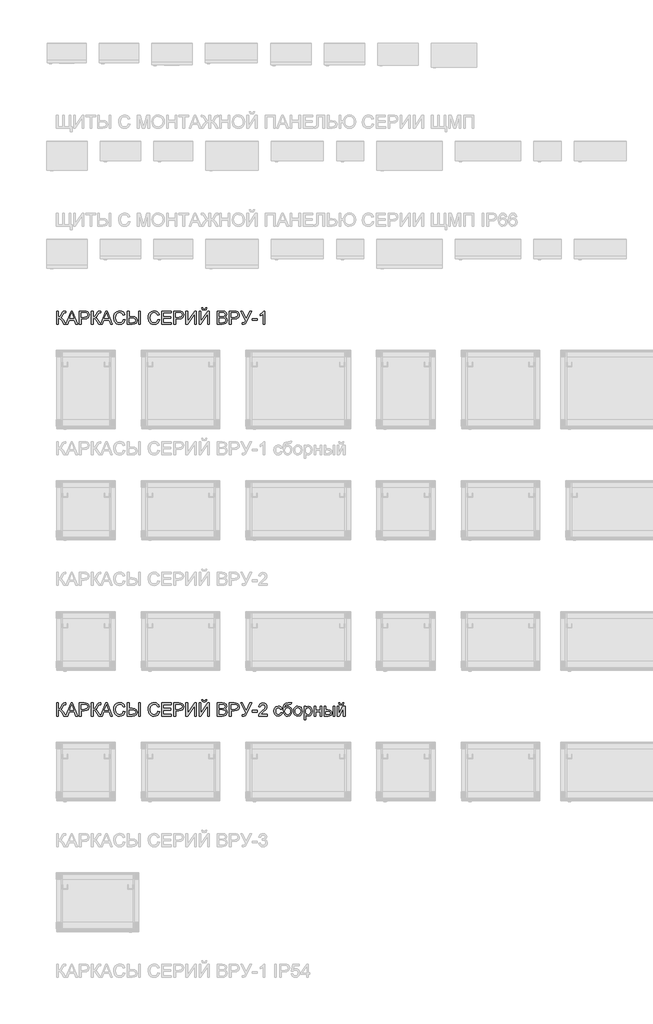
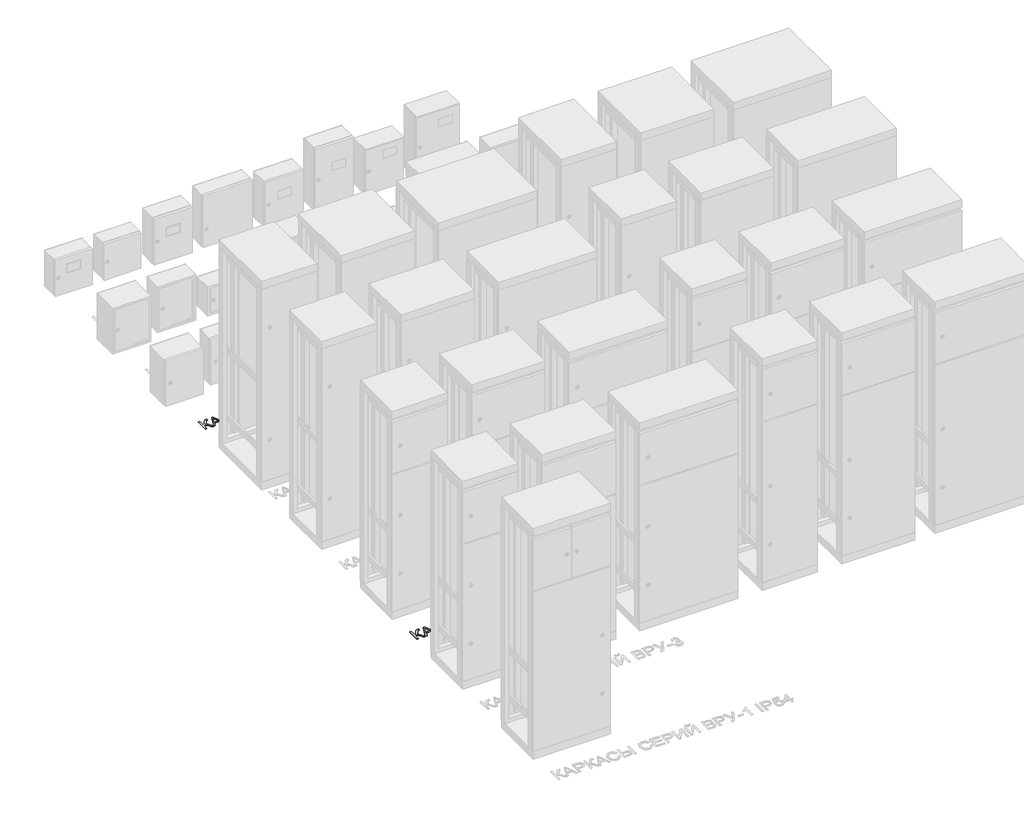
# One storey, part 6 of 25: 2 proxies.
"""IFC4 building model written with IfcOpenShell, lengths in millimetres."""

from ifc_helpers import new_model, si_unit, frame, origin, place, context, project, spatial, polyline, outline, extrude, element, save

model = new_model("IFC4")

# Units and contexts
model_context = context("Model", 3, world=origin())
ifc_project = project(units=[si_unit("LENGTHUNIT", "METRE", prefix="MILLI")], contexts=[model_context])

# Site, building, storey
site = spatial("IfcSite", under=ifc_project)
building = spatial("IfcBuilding", under=site)
storey = spatial("IfcBuildingStorey", under=building, Name="Этаж 01", Elevation=0.0)

# Proxies
placement = place(None, origin())
element("IfcBuildingElementProxy", 1, Name="Надпись на модели 1", ObjectType="Надпись на модели 1", at=placement, inside=storey, context=model_context, shape_type="SweptSolid", body=[
    extrude(outline(polyline([(-18982.0558227, 3786.235284), (-18999.9103622, 3814.5376722), (-19012.4796637, 3829.3142656), (-19025.564, 3833.3241794), (-19025.564, 3786.235284), (-19038.1210387, 3786.235284), (-19038.1210387, 3886.6915941), (-19025.564, 3886.6915941), (-19025.564, 3842.7419585), (-19011.5231705, 3846.0651591), (-19001.7252467, 3862.8773663), (-18994.7968024, 3876.9181958), (-18986.9486532, 3883.8711655), (-18975.7282523, 3886.6915941), (-18967.4876957, 3886.5444413), (-18967.4876957, 3873.9874026), (-18970.2590734, 3874.060979), (-18973.030451, 3874.1345554), (-18982.8406376, 3871.117923), (-18990.2963794, 3858.1930022), (-18999.1868609, 3842.4476529), (-19007.8566133, 3837.248254), (-18998.1629227, 3831.5706085), (-18988.6041222, 3819.737071), (-18967.9231583, 3786.9261574), (-18928.0997967, 3886.6915941), (-18917.4066934, 3886.6915941), (-18877.3075559, 3786.235284), (-18890.5758332, 3786.235284), (-18902.0782769, 3817.6278809), (-18943.4527386, 3817.6278809), (-18954.9306569, 3786.235284), (-18968.1989342, 3786.235284), (-18982.0558227, 3786.235284)]), holes=[polyline([(-18938.841951, 3830.1849197), (-18906.6645391, 3830.1849197), (-18915.7144362, 3854.8820643), (-18922.753245, 3874.1345554), (-18929.007239, 3857.0403053), (-18938.841951, 3830.1849197)])]), frame((0.0, 0.0, 40.0), z_axis=(0.0, 0.0, 1.0), x_axis=(1.0, 0.0, 0.0)), (0.0, 0.0, 1.0), 2.0),
    extrude(outline(polyline([(-18863.8921258, 3786.235284), (-18863.8921258, 3886.6915941), (-18826.6624679, 3886.6915941), (-18811.6528825, 3885.735101), (-18799.451463, 3881.0384742), (-18791.5420001, 3871.3263895), (-18788.5498932, 3857.6289165), (-18790.5701785, 3845.7892476), (-18796.6310344, 3835.9238788), (-18807.9648655, 3829.2652147), (-18825.8040766, 3827.04566), (-18851.335087, 3827.04566), (-18851.335087, 3786.235284), (-18863.8921258, 3786.235284)]), holes=[polyline([(-18851.335087, 3839.6026988), (-18825.0683126, 3839.6026988), (-18806.576111, 3844.2134864), (-18802.4742267, 3849.7623732), (-18801.106932, 3857.1874581), (-18804.3320308, 3867.5862559), (-18812.8055794, 3873.2761641), (-18825.3626182, 3874.1345554), (-18851.335087, 3874.1345554), (-18851.335087, 3839.6026988)])]), frame((0.0, 0.0, 40.0), z_axis=(0.0, 0.0, 1.0), x_axis=(1.0, 0.0, 0.0)), (0.0, 0.0, 1.0), 2.0),
    extrude(outline(polyline([(-18715.2187488, 3786.235284), (-18733.0732883, 3814.5376722), (-18745.6425898, 3829.3142656), (-18758.7269261, 3833.3241794), (-18758.7269261, 3786.235284), (-18771.2839649, 3786.235284), (-18771.2839649, 3886.6915941), (-18758.7269261, 3886.6915941), (-18758.7269261, 3842.7419585), (-18744.6860966, 3846.0651591), (-18734.8881728, 3862.8773663), (-18727.9597286, 3876.9181958), (-18720.1115794, 3883.8711655), (-18708.8911785, 3886.6915941), (-18700.6506218, 3886.5444413), (-18700.6506218, 3873.9874026), (-18703.4219995, 3874.060979), (-18706.1933772, 3874.1345554), (-18716.0035638, 3871.117923), (-18723.4593055, 3858.1930022), (-18732.3497871, 3842.4476529), (-18741.0195394, 3837.248254), (-18731.3258489, 3831.5706085), (-18721.7670483, 3819.737071), (-18701.0860845, 3786.9261574), (-18661.2627229, 3886.6915941), (-18650.5696195, 3886.6915941), (-18610.4704821, 3786.235284), (-18623.7387594, 3786.235284), (-18635.2412031, 3817.6278809), (-18676.6156648, 3817.6278809), (-18688.0935831, 3786.235284), (-18701.3618603, 3786.235284), (-18715.2187488, 3786.235284)]), holes=[polyline([(-18672.0048771, 3830.1849197), (-18639.8274653, 3830.1849197), (-18648.8773624, 3854.8820643), (-18655.9161712, 3874.1345554), (-18662.1701651, 3857.0403053), (-18672.0048771, 3830.1849197)])]), frame((0.0, 0.0, 40.0), z_axis=(0.0, 0.0, 1.0), x_axis=(1.0, 0.0, 0.0)), (0.0, 0.0, 1.0), 2.0),
    extrude(outline(polyline([(-18526.4217089, 3821.944363), (-18513.8646701, 3818.7070014), (-18519.6588116, 3804.0744951), (-18528.7516282, 3793.3844574), (-18540.6955303, 3786.845355), (-18555.0429281, 3784.6656541), (-18569.6079895, 3786.3149918), (-18581.1748125, 3791.2630046), (-18590.0407686, 3799.3380144), (-18596.503229, 3810.3683429), (-18601.7639415, 3837.2237285), (-18600.2770851, 3851.8715633), (-18595.8165159, 3864.5205726), (-18588.6152259, 3874.7691518), (-18578.9062069, 3882.2156965), (-18567.3915004, 3886.7498421), (-18554.773148, 3888.261224), (-18541.0051643, 3886.305318), (-18529.6222823, 3880.4376002), (-18520.9801211, 3871.0198211), (-18515.4343, 3858.4137314), (-18527.9913387, 3855.4216246), (-18538.2920346, 3870.8604056), (-18555.2636573, 3875.7041852), (-18574.9085559, 3870.3331081), (-18586.0063294, 3855.9121339), (-18589.2069027, 3837.248254), (-18585.4177182, 3815.6167927), (-18573.6209689, 3801.7966924), (-18556.2937269, 3797.2226929), (-18545.8121557, 3798.78006), (-18537.078024, 3803.4521614), (-18530.4837393, 3811.189946), (-18526.4217089, 3821.944363)])), frame((0.0, 0.0, 40.0), z_axis=(0.0, 0.0, 1.0), x_axis=(1.0, 0.0, 0.0)), (0.0, 0.0, 1.0), 2.0),
    extrude(outline(polyline([(-18496.5987418, 3886.6915941), (-18484.0417031, 3886.6915941), (-18484.0417031, 3844.3115883), (-18459.9086442, 3844.3115883), (-18440.269877, 3842.1165591), (-18428.7367765, 3835.5314713), (-18423.126576, 3826.1627432), (-18421.2565092, 3815.6167927), (-18423.2338749, 3804.6017926), (-18429.1659721, 3795.0521891), (-18440.4691464, 3788.4395103), (-18458.5597435, 3786.235284), (-18496.5987418, 3786.235284), (-18496.5987418, 3886.6915941)]), holes=[polyline([(-18484.0417031, 3798.7923228), (-18458.6823709, 3798.7923228), (-18439.7119226, 3802.777711), (-18435.2881416, 3807.9617815), (-18433.813548, 3815.5432163), (-18437.3820033, 3825.5250811), (-18446.6035787, 3830.6509035), (-18465.475925, 3831.7545495), (-18484.0417031, 3831.7545495), (-18484.0417031, 3798.7923228)])]), frame((0.0, 0.0, 40.0), z_axis=(0.0, 0.0, 1.0), x_axis=(1.0, 0.0, 0.0)), (0.0, 0.0, 1.0), 2.0),
    extrude(outline(polyline([(-18408.6994704, 3886.6915941), (-18396.1424317, 3886.6915941), (-18396.1424317, 3786.235284), (-18408.6994704, 3786.235284), (-18408.6994704, 3886.6915941)])), frame((0.0, 0.0, 40.0), z_axis=(0.0, 0.0, 1.0), x_axis=(1.0, 0.0, 0.0)), (0.0, 0.0, 1.0), 2.0),
    extrude(outline(polyline([(-18262.7238948, 3821.944363), (-18250.166856, 3818.7070014), (-18255.9609974, 3804.0744951), (-18265.0538141, 3793.3844574), (-18276.9977162, 3786.845355), (-18291.345114, 3784.6656541), (-18305.9101753, 3786.3149918), (-18317.4769984, 3791.2630046), (-18326.3429545, 3799.3380144), (-18332.8054148, 3810.3683429), (-18338.0661274, 3837.2237285), (-18336.579271, 3851.8715633), (-18332.1187018, 3864.5205726), (-18324.9174117, 3874.7691518), (-18315.2083927, 3882.2156965), (-18303.6936863, 3886.7498421), (-18291.0753339, 3888.261224), (-18277.3073502, 3886.305318), (-18265.9244681, 3880.4376002), (-18257.2823069, 3871.0198211), (-18251.7364858, 3858.4137314), (-18264.2935246, 3855.4216246), (-18274.5942205, 3870.8604056), (-18291.5658432, 3875.7041852), (-18311.2107417, 3870.3331081), (-18322.3085152, 3855.9121339), (-18325.5090886, 3837.248254), (-18321.7199041, 3815.6167927), (-18309.9231547, 3801.7966924), (-18292.5959128, 3797.2226929), (-18282.1143416, 3798.78006), (-18273.3802099, 3803.4521614), (-18266.7859251, 3811.189946), (-18262.7238948, 3821.944363)])), frame((0.0, 0.0, 40.0), z_axis=(0.0, 0.0, 1.0), x_axis=(1.0, 0.0, 0.0)), (0.0, 0.0, 1.0), 2.0),
    extrude(outline(polyline([(-18232.9009277, 3786.235284), (-18232.9009277, 3886.6915941), (-18160.6979548, 3886.6915941), (-18160.6979548, 3874.1345554), (-18220.3438889, 3874.1345554), (-18220.3438889, 3844.3115883), (-18163.8372145, 3844.3115883), (-18163.8372145, 3831.7545495), (-18220.3438889, 3831.7545495), (-18220.3438889, 3798.7923228), (-18159.1283249, 3798.7923228), (-18159.1283249, 3786.235284), (-18232.9009277, 3786.235284)])), frame((0.0, 0.0, 40.0), z_axis=(0.0, 0.0, 1.0), x_axis=(1.0, 0.0, 0.0)), (0.0, 0.0, 1.0), 2.0),
    extrude(outline(polyline([(-18140.2927668, 3786.235284), (-18140.2927668, 3886.6915941), (-18103.0631089, 3886.6915941), (-18088.0535235, 3885.735101), (-18075.8521039, 3881.0384742), (-18067.942641, 3871.3263895), (-18064.9505342, 3857.6289165), (-18066.9708194, 3845.7892476), (-18073.0316753, 3835.9238788), (-18084.3655064, 3829.2652147), (-18102.2047175, 3827.04566), (-18127.735728, 3827.04566), (-18127.735728, 3786.235284), (-18140.2927668, 3786.235284)]), holes=[polyline([(-18127.735728, 3839.6026988), (-18101.4689535, 3839.6026988), (-18082.9767519, 3844.2134864), (-18078.8748677, 3849.7623732), (-18077.5075729, 3857.1874581), (-18080.7326717, 3867.5862559), (-18089.2062204, 3873.2761641), (-18101.7632591, 3874.1345554), (-18127.735728, 3874.1345554), (-18127.735728, 3839.6026988)])]), frame((0.0, 0.0, 40.0), z_axis=(0.0, 0.0, 1.0), x_axis=(1.0, 0.0, 0.0)), (0.0, 0.0, 1.0), 2.0),
    extrude(outline(polyline([(-18047.6846058, 3886.6915941), (-18035.1275671, 3886.6915941), (-18035.1275671, 3807.1309813), (-17982.5449672, 3886.6915941), (-17969.2031135, 3886.6915941), (-17969.2031135, 3786.235284), (-17981.7601523, 3786.235284), (-17981.7601523, 3865.5751676), (-18034.2201248, 3786.235284), (-18047.6846058, 3786.235284), (-18047.6846058, 3886.6915941)])), frame((0.0, 0.0, 40.0), z_axis=(0.0, 0.0, 1.0), x_axis=(1.0, 0.0, 0.0)), (0.0, 0.0, 1.0), 2.0),
    extrude(outline(polyline([(-17897.0001406, 3911.8056717), (-17887.5823615, 3911.8056717), (-17893.6769399, 3897.8384186), (-17907.2027346, 3892.9701135), (-17921.844438, 3897.8016304), (-17928.3927375, 3911.8056717), (-17918.9749585, 3911.8056717), (-17915.4432913, 3904.7300746), (-17908.3309061, 3902.3878926), (-17900.5318078, 3904.6564982), (-17897.0001406, 3911.8056717)])), frame((0.0, 0.0, 40.0), z_axis=(0.0, 0.0, 1.0), x_axis=(1.0, 0.0, 0.0)), (0.0, 0.0, 1.0), 2.0),
    extrude(outline(polyline([(-17947.2282957, 3886.6915941), (-17934.6712569, 3886.6915941), (-17934.6712569, 3807.1309813), (-17882.0886571, 3886.6915941), (-17868.7468034, 3886.6915941), (-17868.7468034, 3786.235284), (-17881.3038422, 3786.235284), (-17881.3038422, 3865.5751676), (-17933.7638147, 3786.235284), (-17947.2282957, 3786.235284), (-17947.2282957, 3886.6915941)])), frame((0.0, 0.0, 40.0), z_axis=(0.0, 0.0, 1.0), x_axis=(1.0, 0.0, 0.0)), (0.0, 0.0, 1.0), 2.0),
    extrude(outline(polyline([(-17807.5312394, 3786.235284), (-17807.5312394, 3886.6915941), (-17769.1979355, 3886.6915941), (-17750.423691, 3883.7362754), (-17739.3381802, 3874.6495902), (-17735.3282665, 3861.7982458), (-17738.7005181, 3850.0628102), (-17748.8908494, 3841.1723286), (-17736.5177516, 3831.8036005), (-17732.1890068, 3816.1808784), (-17735.1443255, 3802.6796092), (-17742.4651772, 3793.0656264), (-17753.3912724, 3787.9643294), (-17769.4922411, 3786.235284), (-17807.5312394, 3786.235284)]), holes=[polyline([(-17794.9742006, 3845.8812181), (-17772.0428896, 3845.8812181), (-17758.651985, 3846.9603387), (-17750.5953693, 3851.6079145), (-17747.8853052, 3859.7871576), (-17750.4114283, 3867.9786633), (-17757.6464408, 3872.8224429), (-17773.7841977, 3874.1345554), (-17794.9742006, 3874.1345554), (-17794.9742006, 3845.8812181)]), polyline([(-17794.9742006, 3798.7923228), (-17769.222461, 3798.7923228), (-17759.9027838, 3799.2828321), (-17752.0178463, 3802.0174216), (-17746.793922, 3807.5969652), (-17744.7460456, 3816.0582511), (-17747.1495413, 3825.8193867), (-17754.9363768, 3831.6441849), (-17770.4487343, 3833.3241794), (-17794.9742006, 3833.3241794), (-17794.9742006, 3798.7923228)])]), frame((0.0, 0.0, 40.0), z_axis=(0.0, 0.0, 1.0), x_axis=(1.0, 0.0, 0.0)), (0.0, 0.0, 1.0), 2.0),
    extrude(outline(polyline([(-17714.9230785, 3786.235284), (-17714.9230785, 3886.6915941), (-17677.6934206, 3886.6915941), (-17662.6838352, 3885.735101), (-17650.4824157, 3881.0384742), (-17642.5729528, 3871.3263895), (-17639.5808459, 3857.6289165), (-17641.6011312, 3845.7892476), (-17647.661987, 3835.9238788), (-17658.9958182, 3829.2652147), (-17676.8350292, 3827.04566), (-17702.3660397, 3827.04566), (-17702.3660397, 3786.235284), (-17714.9230785, 3786.235284)]), holes=[polyline([(-17702.3660397, 3839.6026988), (-17676.0992653, 3839.6026988), (-17657.6070636, 3844.2134864), (-17653.5051794, 3849.7623732), (-17652.1378846, 3857.1874581), (-17655.3629835, 3867.5862559), (-17663.8365321, 3873.2761641), (-17676.3935708, 3874.1345554), (-17702.3660397, 3874.1345554), (-17702.3660397, 3839.6026988)])]), frame((0.0, 0.0, 40.0), z_axis=(0.0, 0.0, 1.0), x_axis=(1.0, 0.0, 0.0)), (0.0, 0.0, 1.0), 2.0),
    extrude(outline(polyline([(-17629.3782519, 3886.6915941), (-17615.4723124, 3886.6915941), (-17585.4286162, 3827.1928128), (-17558.4015523, 3886.6915941), (-17544.6182402, 3886.6915941), (-17582.7553403, 3808.430831), (-17593.1296126, 3789.2028654), (-17604.7301582, 3784.6656541), (-17616.0363982, 3786.235284), (-17616.0363982, 3797.2226929), (-17606.1526352, 3797.2226929), (-17598.8195208, 3800.0185961), (-17592.0259666, 3812.7473131), (-17629.3782519, 3886.6915941)])), frame((0.0, 0.0, 40.0), z_axis=(0.0, 0.0, 1.0), x_axis=(1.0, 0.0, 0.0)), (0.0, 0.0, 1.0), 2.0),
    extrude(outline(polyline([(-17540.6941656, 3816.0582511), (-17540.6941656, 3828.6152898), (-17501.4534194, 3828.6152898), (-17501.4534194, 3816.0582511), (-17540.6941656, 3816.0582511)])), frame((0.0, 0.0, 40.0), z_axis=(0.0, 0.0, 1.0), x_axis=(1.0, 0.0, 0.0)), (0.0, 0.0, 1.0), 2.0),
    extrude(outline(polyline([(-17443.3771151, 3786.235284), (-17455.9341539, 3786.235284), (-17455.9341539, 3864.5205726), (-17467.829005, 3856.0470239), (-17481.0482314, 3849.7071909), (-17481.0482314, 3861.5775166), (-17462.6418689, 3873.325215), (-17451.470519, 3886.6915941), (-17443.3771151, 3886.6915941), (-17443.3771151, 3786.235284)])), frame((0.0, 0.0, 40.0), z_axis=(0.0, 0.0, 1.0), x_axis=(1.0, 0.0, 0.0)), (0.0, 0.0, 1.0), 2.0),
])
element("IfcBuildingElementProxy", 2, Name="Надпись на модели 1", ObjectType="Надпись на модели 1", at=placement, inside=storey, context=model_context, shape_type="SweptSolid", body=[
    extrude(outline(polyline([(-18982.0558227, 786.235284), (-18999.9103622, 814.5376722), (-19012.4796637, 829.3142656), (-19025.564, 833.3241794), (-19025.564, 786.235284), (-19038.1210387, 786.235284), (-19038.1210387, 886.6915941), (-19025.564, 886.6915941), (-19025.564, 842.7419585), (-19011.5231705, 846.0651591), (-19001.7252467, 862.8773663), (-18994.7968024, 876.9181958), (-18986.9486532, 883.8711655), (-18975.7282523, 886.6915941), (-18967.4876957, 886.5444413), (-18967.4876957, 873.9874026), (-18970.2590734, 874.060979), (-18973.030451, 874.1345554), (-18982.8406376, 871.117923), (-18990.2963794, 858.1930022), (-18999.1868609, 842.4476529), (-19007.8566133, 837.248254), (-18998.1629227, 831.5706085), (-18988.6041222, 819.737071), (-18967.9231583, 786.9261574), (-18928.0997967, 886.6915941), (-18917.4066934, 886.6915941), (-18877.3075559, 786.235284), (-18890.5758332, 786.235284), (-18902.0782769, 817.6278809), (-18943.4527386, 817.6278809), (-18954.9306569, 786.235284), (-18968.1989342, 786.235284), (-18982.0558227, 786.235284)]), holes=[polyline([(-18938.841951, 830.1849197), (-18906.6645391, 830.1849197), (-18915.7144362, 854.8820643), (-18922.753245, 874.1345554), (-18929.007239, 857.0403053), (-18938.841951, 830.1849197)])]), frame((0.0, 0.0, 40.0), z_axis=(0.0, 0.0, 1.0), x_axis=(1.0, 0.0, 0.0)), (0.0, 0.0, 1.0), 2.0),
    extrude(outline(polyline([(-18863.8921258, 786.235284), (-18863.8921258, 886.6915941), (-18826.6624679, 886.6915941), (-18811.6528825, 885.735101), (-18799.451463, 881.0384742), (-18791.5420001, 871.3263895), (-18788.5498932, 857.6289165), (-18790.5701785, 845.7892476), (-18796.6310344, 835.9238788), (-18807.9648655, 829.2652147), (-18825.8040766, 827.04566), (-18851.335087, 827.04566), (-18851.335087, 786.235284), (-18863.8921258, 786.235284)]), holes=[polyline([(-18851.335087, 839.6026988), (-18825.0683126, 839.6026988), (-18806.576111, 844.2134864), (-18802.4742267, 849.7623732), (-18801.106932, 857.1874581), (-18804.3320308, 867.5862559), (-18812.8055794, 873.2761641), (-18825.3626182, 874.1345554), (-18851.335087, 874.1345554), (-18851.335087, 839.6026988)])]), frame((0.0, 0.0, 40.0), z_axis=(0.0, 0.0, 1.0), x_axis=(1.0, 0.0, 0.0)), (0.0, 0.0, 1.0), 2.0),
    extrude(outline(polyline([(-18715.2187488, 786.235284), (-18733.0732883, 814.5376722), (-18745.6425898, 829.3142656), (-18758.7269261, 833.3241794), (-18758.7269261, 786.235284), (-18771.2839649, 786.235284), (-18771.2839649, 886.6915941), (-18758.7269261, 886.6915941), (-18758.7269261, 842.7419585), (-18744.6860966, 846.0651591), (-18734.8881728, 862.8773663), (-18727.9597286, 876.9181958), (-18720.1115794, 883.8711655), (-18708.8911785, 886.6915941), (-18700.6506218, 886.5444413), (-18700.6506218, 873.9874026), (-18703.4219995, 874.060979), (-18706.1933772, 874.1345554), (-18716.0035638, 871.117923), (-18723.4593055, 858.1930022), (-18732.3497871, 842.4476529), (-18741.0195394, 837.248254), (-18731.3258489, 831.5706085), (-18721.7670483, 819.737071), (-18701.0860845, 786.9261574), (-18661.2627229, 886.6915941), (-18650.5696195, 886.6915941), (-18610.4704821, 786.235284), (-18623.7387594, 786.235284), (-18635.2412031, 817.6278809), (-18676.6156648, 817.6278809), (-18688.0935831, 786.235284), (-18701.3618603, 786.235284), (-18715.2187488, 786.235284)]), holes=[polyline([(-18672.0048771, 830.1849197), (-18639.8274653, 830.1849197), (-18648.8773624, 854.8820643), (-18655.9161712, 874.1345554), (-18662.1701651, 857.0403053), (-18672.0048771, 830.1849197)])]), frame((0.0, 0.0, 40.0), z_axis=(0.0, 0.0, 1.0), x_axis=(1.0, 0.0, 0.0)), (0.0, 0.0, 1.0), 2.0),
    extrude(outline(polyline([(-18526.4217089, 821.944363), (-18513.8646701, 818.7070014), (-18519.6588116, 804.0744951), (-18528.7516282, 793.3844574), (-18540.6955303, 786.845355), (-18555.0429281, 784.6656541), (-18569.6079895, 786.3149918), (-18581.1748125, 791.2630046), (-18590.0407686, 799.3380144), (-18596.503229, 810.3683429), (-18601.7639415, 837.2237285), (-18600.2770851, 851.8715633), (-18595.8165159, 864.5205726), (-18588.6152259, 874.7691518), (-18578.9062069, 882.2156965), (-18567.3915004, 886.7498421), (-18554.773148, 888.261224), (-18541.0051643, 886.305318), (-18529.6222823, 880.4376002), (-18520.9801211, 871.0198211), (-18515.4343, 858.4137314), (-18527.9913387, 855.4216246), (-18538.2920346, 870.8604056), (-18555.2636573, 875.7041852), (-18574.9085559, 870.3331081), (-18586.0063294, 855.9121339), (-18589.2069027, 837.248254), (-18585.4177182, 815.6167927), (-18573.6209689, 801.7966924), (-18556.2937269, 797.2226929), (-18545.8121557, 798.78006), (-18537.078024, 803.4521614), (-18530.4837393, 811.189946), (-18526.4217089, 821.944363)])), frame((0.0, 0.0, 40.0), z_axis=(0.0, 0.0, 1.0), x_axis=(1.0, 0.0, 0.0)), (0.0, 0.0, 1.0), 2.0),
    extrude(outline(polyline([(-18496.5987418, 886.6915941), (-18484.0417031, 886.6915941), (-18484.0417031, 844.3115883), (-18459.9086442, 844.3115883), (-18440.269877, 842.1165591), (-18428.7367765, 835.5314713), (-18423.126576, 826.1627432), (-18421.2565092, 815.6167927), (-18423.2338749, 804.6017926), (-18429.1659721, 795.0521891), (-18440.4691464, 788.4395103), (-18458.5597435, 786.235284), (-18496.5987418, 786.235284), (-18496.5987418, 886.6915941)]), holes=[polyline([(-18484.0417031, 798.7923228), (-18458.6823709, 798.7923228), (-18439.7119226, 802.777711), (-18435.2881416, 807.9617815), (-18433.813548, 815.5432163), (-18437.3820033, 825.5250811), (-18446.6035787, 830.6509035), (-18465.475925, 831.7545495), (-18484.0417031, 831.7545495), (-18484.0417031, 798.7923228)])]), frame((0.0, 0.0, 40.0), z_axis=(0.0, 0.0, 1.0), x_axis=(1.0, 0.0, 0.0)), (0.0, 0.0, 1.0), 2.0),
    extrude(outline(polyline([(-18408.6994704, 886.6915941), (-18396.1424317, 886.6915941), (-18396.1424317, 786.235284), (-18408.6994704, 786.235284), (-18408.6994704, 886.6915941)])), frame((0.0, 0.0, 40.0), z_axis=(0.0, 0.0, 1.0), x_axis=(1.0, 0.0, 0.0)), (0.0, 0.0, 1.0), 2.0),
    extrude(outline(polyline([(-18262.7238948, 821.944363), (-18250.166856, 818.7070014), (-18255.9609974, 804.0744951), (-18265.0538141, 793.3844574), (-18276.9977162, 786.845355), (-18291.345114, 784.6656541), (-18305.9101753, 786.3149918), (-18317.4769984, 791.2630046), (-18326.3429545, 799.3380144), (-18332.8054148, 810.3683429), (-18338.0661274, 837.2237285), (-18336.579271, 851.8715633), (-18332.1187018, 864.5205726), (-18324.9174117, 874.7691518), (-18315.2083927, 882.2156965), (-18303.6936863, 886.7498421), (-18291.0753339, 888.261224), (-18277.3073502, 886.305318), (-18265.9244681, 880.4376002), (-18257.2823069, 871.0198211), (-18251.7364858, 858.4137314), (-18264.2935246, 855.4216246), (-18274.5942205, 870.8604056), (-18291.5658432, 875.7041852), (-18311.2107417, 870.3331081), (-18322.3085152, 855.9121339), (-18325.5090886, 837.248254), (-18321.7199041, 815.6167927), (-18309.9231547, 801.7966924), (-18292.5959128, 797.2226929), (-18282.1143416, 798.78006), (-18273.3802099, 803.4521614), (-18266.7859251, 811.189946), (-18262.7238948, 821.944363)])), frame((0.0, 0.0, 40.0), z_axis=(0.0, 0.0, 1.0), x_axis=(1.0, 0.0, 0.0)), (0.0, 0.0, 1.0), 2.0),
    extrude(outline(polyline([(-18232.9009277, 786.235284), (-18232.9009277, 886.6915941), (-18160.6979548, 886.6915941), (-18160.6979548, 874.1345554), (-18220.3438889, 874.1345554), (-18220.3438889, 844.3115883), (-18163.8372145, 844.3115883), (-18163.8372145, 831.7545495), (-18220.3438889, 831.7545495), (-18220.3438889, 798.7923228), (-18159.1283249, 798.7923228), (-18159.1283249, 786.235284), (-18232.9009277, 786.235284)])), frame((0.0, 0.0, 40.0), z_axis=(0.0, 0.0, 1.0), x_axis=(1.0, 0.0, 0.0)), (0.0, 0.0, 1.0), 2.0),
    extrude(outline(polyline([(-18140.2927668, 786.235284), (-18140.2927668, 886.6915941), (-18103.0631089, 886.6915941), (-18088.0535235, 885.735101), (-18075.8521039, 881.0384742), (-18067.942641, 871.3263895), (-18064.9505342, 857.6289165), (-18066.9708194, 845.7892476), (-18073.0316753, 835.9238788), (-18084.3655064, 829.2652147), (-18102.2047175, 827.04566), (-18127.735728, 827.04566), (-18127.735728, 786.235284), (-18140.2927668, 786.235284)]), holes=[polyline([(-18127.735728, 839.6026988), (-18101.4689535, 839.6026988), (-18082.9767519, 844.2134864), (-18078.8748677, 849.7623732), (-18077.5075729, 857.1874581), (-18080.7326717, 867.5862559), (-18089.2062204, 873.2761641), (-18101.7632591, 874.1345554), (-18127.735728, 874.1345554), (-18127.735728, 839.6026988)])]), frame((0.0, 0.0, 40.0), z_axis=(0.0, 0.0, 1.0), x_axis=(1.0, 0.0, 0.0)), (0.0, 0.0, 1.0), 2.0),
    extrude(outline(polyline([(-18047.6846058, 886.6915941), (-18035.1275671, 886.6915941), (-18035.1275671, 807.1309813), (-17982.5449672, 886.6915941), (-17969.2031135, 886.6915941), (-17969.2031135, 786.235284), (-17981.7601523, 786.235284), (-17981.7601523, 865.5751676), (-18034.2201248, 786.235284), (-18047.6846058, 786.235284), (-18047.6846058, 886.6915941)])), frame((0.0, 0.0, 40.0), z_axis=(0.0, 0.0, 1.0), x_axis=(1.0, 0.0, 0.0)), (0.0, 0.0, 1.0), 2.0),
    extrude(outline(polyline([(-17897.0001406, 911.8056717), (-17887.5823615, 911.8056717), (-17893.6769399, 897.8384186), (-17907.2027346, 892.9701135), (-17921.844438, 897.8016304), (-17928.3927375, 911.8056717), (-17918.9749585, 911.8056717), (-17915.4432913, 904.7300746), (-17908.3309061, 902.3878926), (-17900.5318078, 904.6564982), (-17897.0001406, 911.8056717)])), frame((0.0, 0.0, 40.0), z_axis=(0.0, 0.0, 1.0), x_axis=(1.0, 0.0, 0.0)), (0.0, 0.0, 1.0), 2.0),
    extrude(outline(polyline([(-17947.2282957, 886.6915941), (-17934.6712569, 886.6915941), (-17934.6712569, 807.1309813), (-17882.0886571, 886.6915941), (-17868.7468034, 886.6915941), (-17868.7468034, 786.235284), (-17881.3038422, 786.235284), (-17881.3038422, 865.5751676), (-17933.7638147, 786.235284), (-17947.2282957, 786.235284), (-17947.2282957, 886.6915941)])), frame((0.0, 0.0, 40.0), z_axis=(0.0, 0.0, 1.0), x_axis=(1.0, 0.0, 0.0)), (0.0, 0.0, 1.0), 2.0),
    extrude(outline(polyline([(-17807.5312394, 786.235284), (-17807.5312394, 886.6915941), (-17769.1979355, 886.6915941), (-17750.423691, 883.7362754), (-17739.3381802, 874.6495902), (-17735.3282665, 861.7982458), (-17738.7005181, 850.0628102), (-17748.8908494, 841.1723286), (-17736.5177516, 831.8036005), (-17732.1890068, 816.1808784), (-17735.1443255, 802.6796092), (-17742.4651772, 793.0656264), (-17753.3912724, 787.9643294), (-17769.4922411, 786.235284), (-17807.5312394, 786.235284)]), holes=[polyline([(-17794.9742006, 845.8812181), (-17772.0428896, 845.8812181), (-17758.651985, 846.9603387), (-17750.5953693, 851.6079145), (-17747.8853052, 859.7871576), (-17750.4114283, 867.9786633), (-17757.6464408, 872.8224429), (-17773.7841977, 874.1345554), (-17794.9742006, 874.1345554), (-17794.9742006, 845.8812181)]), polyline([(-17794.9742006, 798.7923228), (-17769.222461, 798.7923228), (-17759.9027838, 799.2828321), (-17752.0178463, 802.0174216), (-17746.793922, 807.5969652), (-17744.7460456, 816.0582511), (-17747.1495413, 825.8193867), (-17754.9363768, 831.6441849), (-17770.4487343, 833.3241794), (-17794.9742006, 833.3241794), (-17794.9742006, 798.7923228)])]), frame((0.0, 0.0, 40.0), z_axis=(0.0, 0.0, 1.0), x_axis=(1.0, 0.0, 0.0)), (0.0, 0.0, 1.0), 2.0),
    extrude(outline(polyline([(-17714.9230785, 786.235284), (-17714.9230785, 886.6915941), (-17677.6934206, 886.6915941), (-17662.6838352, 885.735101), (-17650.4824157, 881.0384742), (-17642.5729528, 871.3263895), (-17639.5808459, 857.6289165), (-17641.6011312, 845.7892476), (-17647.661987, 835.9238788), (-17658.9958182, 829.2652147), (-17676.8350292, 827.04566), (-17702.3660397, 827.04566), (-17702.3660397, 786.235284), (-17714.9230785, 786.235284)]), holes=[polyline([(-17702.3660397, 839.6026988), (-17676.0992653, 839.6026988), (-17657.6070636, 844.2134864), (-17653.5051794, 849.7623732), (-17652.1378846, 857.1874581), (-17655.3629835, 867.5862559), (-17663.8365321, 873.2761641), (-17676.3935708, 874.1345554), (-17702.3660397, 874.1345554), (-17702.3660397, 839.6026988)])]), frame((0.0, 0.0, 40.0), z_axis=(0.0, 0.0, 1.0), x_axis=(1.0, 0.0, 0.0)), (0.0, 0.0, 1.0), 2.0),
    extrude(outline(polyline([(-17629.3782519, 886.6915941), (-17615.4723124, 886.6915941), (-17585.4286162, 827.1928128), (-17558.4015523, 886.6915941), (-17544.6182402, 886.6915941), (-17582.7553403, 808.430831), (-17593.1296126, 789.2028654), (-17604.7301582, 784.6656541), (-17616.0363982, 786.235284), (-17616.0363982, 797.2226929), (-17606.1526352, 797.2226929), (-17598.8195208, 800.0185961), (-17592.0259666, 812.7473131), (-17629.3782519, 886.6915941)])), frame((0.0, 0.0, 40.0), z_axis=(0.0, 0.0, 1.0), x_axis=(1.0, 0.0, 0.0)), (0.0, 0.0, 1.0), 2.0),
    extrude(outline(polyline([(-17540.6941656, 816.0582511), (-17540.6941656, 828.6152898), (-17501.4534194, 828.6152898), (-17501.4534194, 816.0582511), (-17540.6941656, 816.0582511)])), frame((0.0, 0.0, 40.0), z_axis=(0.0, 0.0, 1.0), x_axis=(1.0, 0.0, 0.0)), (0.0, 0.0, 1.0), 2.0),
    extrude(outline(polyline([(-17426.1111868, 798.7923228), (-17426.1111868, 786.235284), (-17492.0356403, 786.235284), (-17490.6867397, 794.8927736), (-17483.0593196, 808.2223646), (-17467.3384957, 822.7782288), (-17445.6579835, 843.6984516), (-17440.2378554, 857.9232221), (-17445.3514151, 869.4379286), (-17458.7055316, 874.1345554), (-17472.6237337, 869.5482932), (-17477.9089717, 856.8686271), (-17490.4660105, 858.4382569), (-17487.421787, 870.5844941), (-17480.8397649, 879.4565816), (-17471.0633009, 884.882841), (-17458.4357514, 886.6915941), (-17445.7162315, 884.6805059), (-17435.9581615, 878.6472412), (-17429.7501529, 869.6341323), (-17427.6808166, 858.6835116), (-17429.9126341, 846.7763977), (-17437.3315876, 834.4646136), (-17455.3210172, 817.2599989), (-17469.7665169, 805.1812067), (-17475.4318996, 798.7923228), (-17426.1111868, 798.7923228)])), frame((0.0, 0.0, 40.0), z_axis=(0.0, 0.0, 1.0), x_axis=(1.0, 0.0, 0.0)), (0.0, 0.0, 1.0), 2.0),
    extrude(outline(polyline([(-17324.0852468, 812.9189914), (-17311.528208, 811.3493615), (-17315.0292184, 800.1810773), (-17321.6081747, 791.7412512), (-17330.645809, 786.4345534), (-17341.5228534, 784.6656541), (-17354.8800355, 787.1335292), (-17365.3248185, 794.5371544), (-17372.066256, 806.5515672), (-17374.3134019, 822.8518052), (-17370.4751664, 843.7107144), (-17358.7765189, 857.1138817), (-17341.6945316, 861.5775166), (-17331.0842018, 860.044675), (-17322.6014561, 855.44615), (-17316.5160747, 848.0271964), (-17313.0978379, 838.0330689), (-17325.6548766, 836.4634391), (-17331.4796749, 845.8689554), (-17341.5964298, 849.0204778), (-17349.7112934, 847.4692421), (-17356.152294, 842.8155349), (-17360.3553458, 834.8079701), (-17361.7563631, 823.1951618), (-17360.3860027, 811.4260036), (-17356.2749214, 803.3908477), (-17349.9504167, 798.7647316), (-17341.9397863, 797.2226929), (-17330.1062488, 801.0731911), (-17324.0852468, 812.9189914)])), frame((0.0, 0.0, 40.0), z_axis=(0.0, 0.0, 1.0), x_axis=(1.0, 0.0, 0.0)), (0.0, 0.0, 1.0), 2.0),
    extrude(outline(polyline([(-17248.7430142, 888.261224), (-17237.7556053, 888.261224), (-17240.9929668, 878.4633002), (-17247.3941135, 874.9193703), (-17262.7715809, 874.1345554), (-17283.4833373, 871.2405503), (-17291.4295884, 861.9699241), (-17294.1151269, 845.5623871), (-17283.2380826, 857.5798656), (-17269.2217786, 861.5775166), (-17256.1558364, 859.0360652), (-17245.5547036, 851.4117108), (-17238.5281575, 839.4524803), (-17236.1859754, 823.9064003), (-17240.8335513, 802.2994644), (-17251.8577484, 789.2641791), (-17269.2217786, 784.6656541), (-17280.5556097, 786.1463792), (-17289.0506181, 790.5885543), (-17299.903137, 805.7452925), (-17303.6800588, 837.9104416), (-17301.2980229, 862.0036466), (-17294.1519151, 876.6974666), (-17282.0639259, 884.1930623), (-17264.8562456, 886.6915941), (-17250.8767298, 886.973637), (-17248.7430142, 888.261224)]), holes=[polyline([(-17248.7430142, 824.2988078), (-17250.1041776, 834.179505), (-17254.1876677, 842.0920336), (-17260.74823, 847.2883668), (-17269.5406096, 849.0204778), (-17278.7070027, 847.1902649), (-17285.5066882, 841.6996261), (-17289.7189371, 833.1494354), (-17291.12302, 822.1405667), (-17289.5717843, 811.4689232), (-17284.918077, 803.6361024), (-17277.9896328, 798.8260453), (-17269.614186, 797.2226929), (-17261.1958197, 799.0774313), (-17254.5310242, 804.6416465), (-17250.1900167, 813.2654136), (-17248.7430142, 824.2988078)])]), frame((0.0, 0.0, 40.0), z_axis=(0.0, 0.0, 1.0), x_axis=(1.0, 0.0, 0.0)), (0.0, 0.0, 1.0), 2.0),
    extrude(outline(polyline([(-17223.6289367, 823.1215854), (-17220.9127413, 840.9086798), (-17212.7641551, 853.4105363), (-17202.6964511, 859.5357715), (-17190.6421844, 861.5775166), (-17177.4505492, 859.0912475), (-17166.9137957, 851.63244), (-17160.0068113, 839.7897054), (-17157.7044831, 824.151655), (-17161.7757105, 801.8089551), (-17173.6337735, 789.1660772), (-17190.6421844, 784.6656541), (-17203.9932352, 787.1427262), (-17214.5177259, 794.5739426), (-17221.351134, 806.6649975), (-17223.6289367, 823.1215854)]), holes=[polyline([(-17211.0718979, 823.1461108), (-17209.618764, 811.7816229), (-17205.2593624, 803.6851533), (-17198.6988001, 798.838308), (-17190.6421844, 797.2226929), (-17182.6223569, 798.8475051), (-17176.0740574, 803.7219415), (-17171.7146558, 811.92571), (-17170.2615219, 823.5385183), (-17171.7238528, 834.5719125), (-17176.1108456, 842.5580175), (-17182.6683422, 847.4048627), (-17190.6421844, 849.0204778), (-17198.6988001, 847.4109941), (-17205.2593624, 842.5825429), (-17209.618764, 834.5044674), (-17211.0718979, 823.1461108)])]), frame((0.0, 0.0, 40.0), z_axis=(0.0, 0.0, 1.0), x_axis=(1.0, 0.0, 0.0)), (0.0, 0.0, 1.0), 2.0),
    extrude(outline(polyline([(-17143.5778145, 757.9819468), (-17143.5778145, 860.0078868), (-17131.0207757, 860.0078868), (-17131.0207757, 847.6961027), (-17122.3387606, 858.1071631), (-17110.6155877, 861.5775166), (-17094.6985601, 856.7214743), (-17084.2997623, 843.036264), (-17080.7926207, 823.6856711), (-17084.7534835, 803.3417968), (-17096.2559272, 789.4849083), (-17112.1361666, 784.6656541), (-17123.0622619, 787.890753), (-17131.0207757, 796.0454705), (-17131.0207757, 757.9819468), (-17143.5778145, 757.9819468)]), holes=[polyline([(-17131.0207757, 822.5329742), (-17129.662678, 811.2757851), (-17125.5883849, 803.4031104), (-17119.57658, 798.7677973), (-17112.4059468, 797.2226929), (-17105.1188176, 798.8229796), (-17098.9537285, 803.6238396), (-17094.7506767, 811.7846886), (-17093.3496594, 823.4649419), (-17094.7169542, 834.6608173), (-17098.8188384, 842.6438566), (-17104.8214463, 847.4263225), (-17111.890912, 849.0204778), (-17118.9879688, 847.325155), (-17125.2205029, 842.2391864), (-17129.5707075, 833.9219876), (-17131.0207757, 822.5329742)])]), frame((0.0, 0.0, 40.0), z_axis=(0.0, 0.0, 1.0), x_axis=(1.0, 0.0, 0.0)), (0.0, 0.0, 1.0), 2.0),
    extrude(outline(polyline([(-17066.665952, 860.0078868), (-17054.1089133, 860.0078868), (-17054.1089133, 831.7545495), (-17021.1466865, 831.7545495), (-17021.1466865, 860.0078868), (-17008.5896477, 860.0078868), (-17008.5896477, 786.235284), (-17021.1466865, 786.235284), (-17021.1466865, 819.1975108), (-17054.1089133, 819.1975108), (-17054.1089133, 786.235284), (-17066.665952, 786.235284), (-17066.665952, 860.0078868)])), frame((0.0, 0.0, 40.0), z_axis=(0.0, 0.0, 1.0), x_axis=(1.0, 0.0, 0.0)), (0.0, 0.0, 1.0), 2.0),
    extrude(outline(polyline([(-16920.6903764, 860.0078868), (-16908.1333376, 860.0078868), (-16908.1333376, 786.235284), (-16920.6903764, 786.235284), (-16920.6903764, 860.0078868)])), frame((0.0, 0.0, 40.0), z_axis=(0.0, 0.0, 1.0), x_axis=(1.0, 0.0, 0.0)), (0.0, 0.0, 1.0), 2.0),
    extrude(outline(polyline([(-16989.7540896, 860.0078868), (-16977.1970508, 860.0078868), (-16977.1970508, 833.3241794), (-16961.6724306, 833.3241794), (-16948.2539348, 831.7514838), (-16938.3119239, 827.0333973), (-16932.1590976, 819.5500643), (-16930.1081554, 809.6816298), (-16931.8280038, 800.6961121), (-16936.9875487, 793.1146773), (-16945.9240155, 787.9551323), (-16958.9746293, 786.235284), (-16989.7540896, 786.235284), (-16989.7540896, 860.0078868)]), holes=[polyline([(-16977.1970508, 798.7923228), (-16964.2966555, 798.7923228), (-16947.6438639, 801.4288104), (-16942.6651942, 809.6571044), (-16946.3562769, 817.3826263), (-16962.6534493, 820.7671406), (-16977.1970508, 820.7671406), (-16977.1970508, 798.7923228)])]), frame((0.0, 0.0, 40.0), z_axis=(0.0, 0.0, 1.0), x_axis=(1.0, 0.0, 0.0)), (0.0, 0.0, 1.0), 2.0),
    extrude(outline(polyline([(-16889.2977794, 860.0078868), (-16876.7407407, 860.0078868), (-16876.7407407, 803.746467), (-16845.887704, 860.0078868), (-16829.6518453, 860.0078868), (-16829.6518453, 786.235284), (-16842.2088841, 786.235284), (-16842.2088841, 842.1533473), (-16872.865717, 786.235284), (-16889.2977794, 786.235284), (-16889.2977794, 860.0078868)])), frame((0.0, 0.0, 40.0), z_axis=(0.0, 0.0, 1.0), x_axis=(1.0, 0.0, 0.0)), (0.0, 0.0, 1.0), 2.0),
    extrude(outline(polyline([(-16848.4874034, 886.6915941), (-16839.0696244, 886.6915941), (-16845.1642027, 872.7243411), (-16858.6899974, 867.856036), (-16873.3317008, 872.6875529), (-16879.8800004, 886.6915941), (-16870.4622213, 886.6915941), (-16866.9305541, 879.6159971), (-16859.8181689, 877.2738151), (-16852.0190706, 879.5424207), (-16848.4874034, 886.6915941)])), frame((0.0, 0.0, 40.0), z_axis=(0.0, 0.0, 1.0), x_axis=(1.0, 0.0, 0.0)), (0.0, 0.0, 1.0), 2.0),
])

save(model, "model.ifc")
